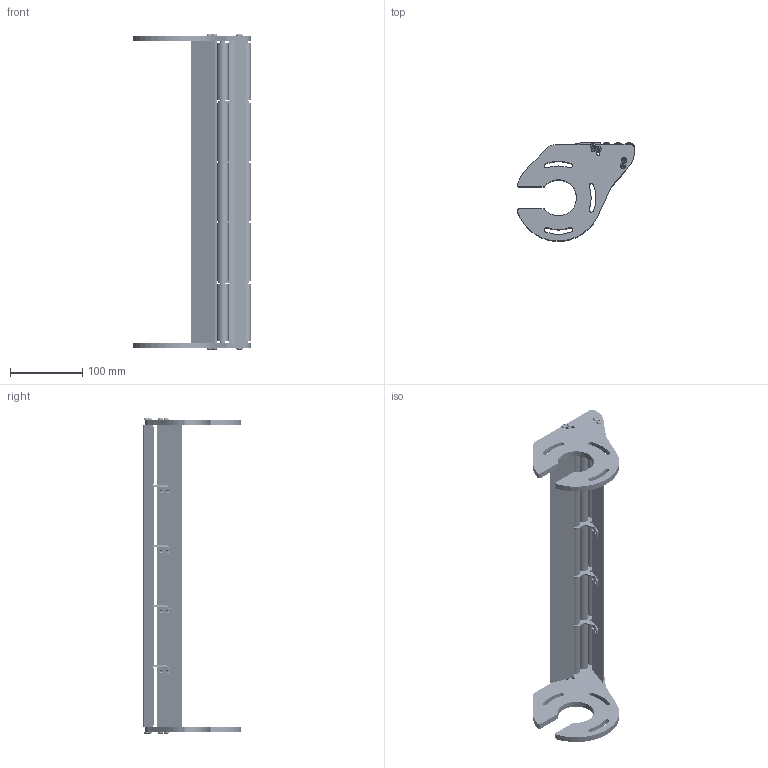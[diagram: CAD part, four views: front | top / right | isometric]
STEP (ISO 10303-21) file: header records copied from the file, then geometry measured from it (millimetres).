
FILE_DESCRIPTION (( 'STEP AP214' ), '1' );
FILE_NAME ('F2 1500 TGRI 1M.STEP', '2024-02-26T14:52:33', ( '' ), ( '' ), 'SwSTEP 2.0', 'SolidWorks 2022', '' );
FILE_SCHEMA (( 'AUTOMOTIVE_DESIGN' ));
Length unit declared in the file: millimetre
Products named in the file (15): ROULEMENT TGRI CAB-F2-R-HEF; F2 1500 TGRI 1M; AXE TGRI F2 1500; Insert M4 TB; ENTRETOISE SA TGRI; SA TGRI + ENTRETOISE; PSTI F2 1M; SA TGRI; Galet + roulement F2 1500; PT-F2 - F2-1500 percé; GR F2 1500; ENTRETOISE TGRI CAB-F2-R-HEF; TBHC 4X16; PSTI F2 1M Symétrie; PT-F2 - F2-1500
Assembly tree (55 placements, depth 3):
  F2 1500 TGRI 1M
    PSTI F2 1M Symétrie
    PSTI F2 1M
    PT-F2 - F2-1500 percé
    PT-F2 - F2-1500
    AXE TGRI F2 1500  x3
    ENTRETOISE TGRI CAB-F2-R-HEF  x6
    Galet + roulement F2 1500  x15
      GR F2 1500
      ROULEMENT TGRI CAB-F2-R-HEF
    SA TGRI + ENTRETOISE  x4
      SA TGRI
      ENTRETOISE SA TGRI
    TBHC 4X16  x8
    Insert M4 TB  x8
Bounding box: 162.87 x 136.6 x 438.78 mm (x, y, z)
Volume: 592482.1 mm3; surface area: 278912.7 mm2
Topology: 90 solids, 90 shells, 3070 faces, 6812 edges, 4036 vertices
Faces by surface type: cone 1056, cylinder 1002, plane 512, torus 428, sphere 52, bspline 20
Entity records: 18423 total; most frequent: CARTESIAN_POINT 3387, DIRECTION 3259, ORIENTED_EDGE 2684, EDGE_CURVE 1342, AXIS2_PLACEMENT_3D 1326, VERTEX_POINT 815, CIRCLE 697, EDGE_LOOP 635
